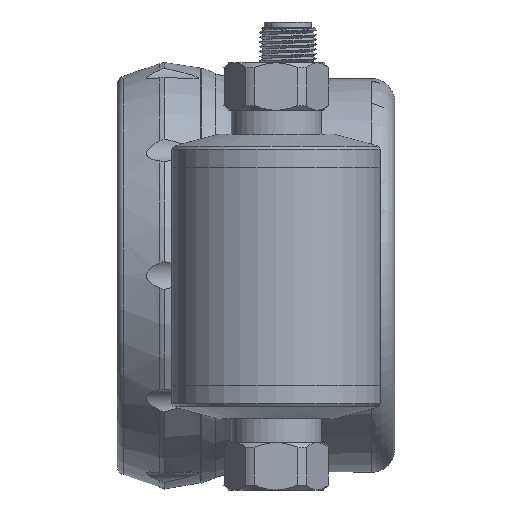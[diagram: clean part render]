
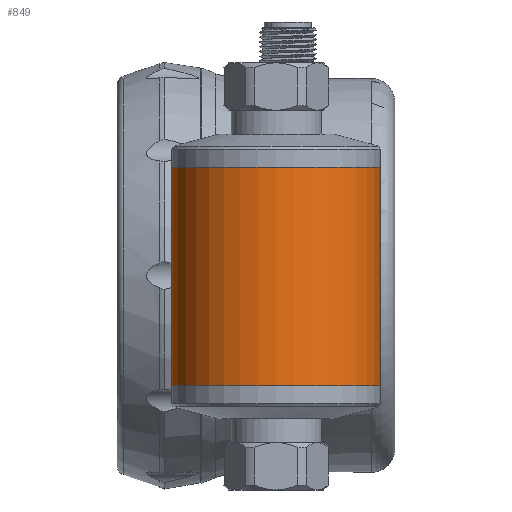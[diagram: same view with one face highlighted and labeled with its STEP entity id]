
A CAD part, front view. The second image highlights one B-rep face of the part: STEP entity #849.
In plain terms, the highlighted cylindrical face has radius 22 mm (diameter 44 mm), a full revolution.
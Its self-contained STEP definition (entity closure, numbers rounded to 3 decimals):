
#294=LINE('',#5229,#373);
#295=LINE('',#5234,#374);
#373=VECTOR('',#4191,1.);
#374=VECTOR('',#4194,1.);
#454=FACE_BOUND('',#1367,.T.);
#455=FACE_BOUND('',#1368,.T.);
#456=FACE_BOUND('',#1369,.T.);
#609=CIRCLE('',#3722,22.);
#610=CIRCLE('',#3724,22.);
#849=ADVANCED_FACE('',(#454,#455,#456),#1093,.T.);
#1093=CYLINDRICAL_SURFACE('',#3726,22.);
#1367=EDGE_LOOP('',(#1703,#1704,#1705,#1706));
#1368=EDGE_LOOP('',(#1707));
#1369=EDGE_LOOP('',(#1708));
#1703=ORIENTED_EDGE('',*,*,#3036,.F.);
#1704=ORIENTED_EDGE('',*,*,#3040,.F.);
#1705=ORIENTED_EDGE('',*,*,#3038,.F.);
#1706=ORIENTED_EDGE('',*,*,#3041,.F.);
#1707=ORIENTED_EDGE('',*,*,#3042,.F.);
#1708=ORIENTED_EDGE('',*,*,#3043,.T.);
#2689=VERTEX_POINT('',#5230);
#2690=VERTEX_POINT('',#5231);
#2691=VERTEX_POINT('',#5233);
#2692=VERTEX_POINT('',#5235);
#2693=VERTEX_POINT('',#5261);
#2694=VERTEX_POINT('',#5264);
#3036=EDGE_CURVE('',#2689,#2690,#294,.T.);
#3038=EDGE_CURVE('',#2691,#2692,#295,.T.);
#3040=EDGE_CURVE('',#2692,#2689,#3533,.T.);
#3041=EDGE_CURVE('',#2690,#2691,#3534,.T.);
#3042=EDGE_CURVE('',#2693,#2693,#609,.T.);
#3043=EDGE_CURVE('',#2694,#2694,#610,.T.);
#3533=B_SPLINE_CURVE_WITH_KNOTS('',3,(#5238,#5239,#5240,#5241,#5242,#5243,
#5244,#5245,#5246,#5247),.UNSPECIFIED.,.F.,.F.,(4,2,2,2,4),(0.,0.25,0.5,
0.75,1.),.UNSPECIFIED.);
#3534=B_SPLINE_CURVE_WITH_KNOTS('',3,(#5249,#5250,#5251,#5252,#5253,#5254,
#5255,#5256,#5257,#5258),.UNSPECIFIED.,.F.,.F.,(4,2,2,2,4),(0.,0.25,0.5,
0.75,1.),.UNSPECIFIED.);
#3722=AXIS2_PLACEMENT_3D('',#5260,#4203,#4204);
#3724=AXIS2_PLACEMENT_3D('',#5263,#4207,#4208);
#3726=AXIS2_PLACEMENT_3D('',#5266,#4211,#4212);
#4191=DIRECTION('',(0.,0.,-1.));
#4194=DIRECTION('',(0.,0.,1.));
#4203=DIRECTION('',(0.,0.,1.));
#4204=DIRECTION('',(1.,0.,0.));
#4207=DIRECTION('',(0.,0.,1.));
#4208=DIRECTION('',(1.,0.,0.));
#4211=DIRECTION('',(0.,0.,-1.));
#4212=DIRECTION('',(1.,0.,0.));
#5229=CARTESIAN_POINT('',(62.165,26.5,17.));
#5230=CARTESIAN_POINT('',(62.165,26.5,9.96));
#5231=CARTESIAN_POINT('',(62.165,26.5,-9.96));
#5233=CARTESIAN_POINT('',(43.835,26.5,-9.96));
#5234=CARTESIAN_POINT('',(43.835,26.5,17.));
#5235=CARTESIAN_POINT('',(43.835,26.5,9.96));
#5238=CARTESIAN_POINT('',(43.835,26.5,9.96));
#5239=CARTESIAN_POINT('',(44.833,26.958,11.501));
#5240=CARTESIAN_POINT('',(46.103,27.453,12.873));
#5241=CARTESIAN_POINT('',(49.236,28.236,14.912));
#5242=CARTESIAN_POINT('',(51.081,28.5,15.535));
#5243=CARTESIAN_POINT('',(54.915,28.5,15.536));
#5244=CARTESIAN_POINT('',(56.764,28.236,14.913));
#5245=CARTESIAN_POINT('',(59.899,27.453,12.871));
#5246=CARTESIAN_POINT('',(61.166,26.958,11.502));
#5247=CARTESIAN_POINT('',(62.165,26.5,9.96));
#5249=CARTESIAN_POINT('',(62.165,26.5,-9.96));
#5250=CARTESIAN_POINT('',(61.167,26.958,-11.501));
#5251=CARTESIAN_POINT('',(59.897,27.453,-12.873));
#5252=CARTESIAN_POINT('',(56.764,28.236,-14.912));
#5253=CARTESIAN_POINT('',(54.919,28.5,-15.535));
#5254=CARTESIAN_POINT('',(51.085,28.5,-15.536));
#5255=CARTESIAN_POINT('',(49.236,28.236,-14.913));
#5256=CARTESIAN_POINT('',(46.101,27.453,-12.871));
#5257=CARTESIAN_POINT('',(44.834,26.958,-11.502));
#5258=CARTESIAN_POINT('',(43.835,26.5,-9.96));
#5260=CARTESIAN_POINT('',(53.,6.5,23.));
#5261=CARTESIAN_POINT('',(75.,6.5,23.));
#5263=CARTESIAN_POINT('',(53.,6.5,-23.));
#5264=CARTESIAN_POINT('',(75.,6.5,-23.));
#5266=CARTESIAN_POINT('',(53.,6.5,17.));
